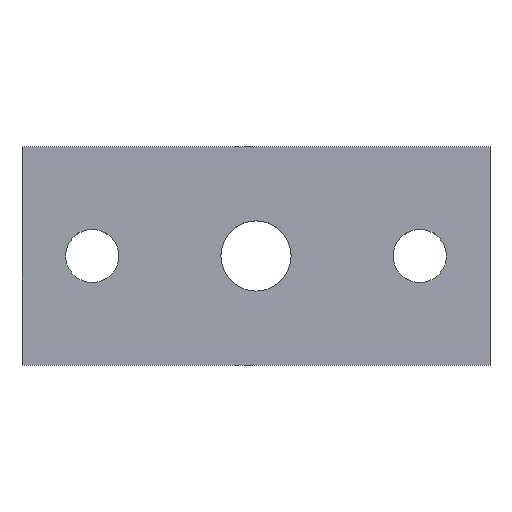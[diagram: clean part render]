
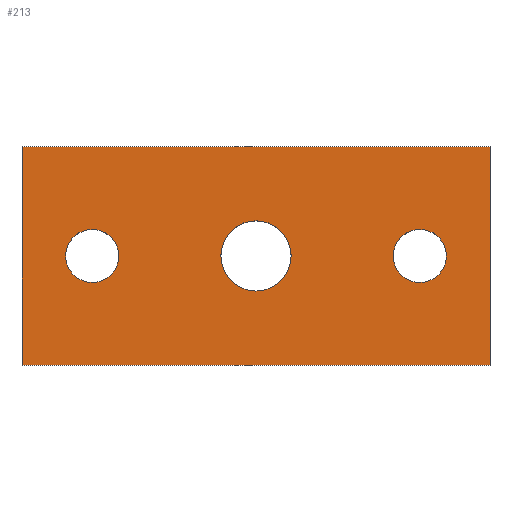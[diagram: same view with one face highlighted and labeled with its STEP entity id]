
A CAD part, top view. The second image highlights one B-rep face of the part: STEP entity #213.
In plain terms, the highlighted planar face has unit normal (0, 0, 1).
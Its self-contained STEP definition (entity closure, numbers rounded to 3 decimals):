
#24 = VERTEX_POINT('',#25);
#25 = CARTESIAN_POINT('',(-15.,13.,53.));
#32 = PLANE('',#33);
#33 = AXIS2_PLACEMENT_3D('',#34,#35,#36);
#34 = CARTESIAN_POINT('',(-15.,13.,50.));
#35 = DIRECTION('',(1.,0.,0.));
#36 = DIRECTION('',(0.,0.,1.));
#44 = PLANE('',#45);
#45 = AXIS2_PLACEMENT_3D('',#46,#47,#48);
#46 = CARTESIAN_POINT('',(-15.,13.,50.));
#47 = DIRECTION('',(0.,1.,0.));
#48 = DIRECTION('',(0.,0.,1.));
#85 = VERTEX_POINT('',#86);
#86 = CARTESIAN_POINT('',(-15.,27.,53.));
#100 = PLANE('',#101);
#101 = AXIS2_PLACEMENT_3D('',#102,#103,#104);
#102 = CARTESIAN_POINT('',(-15.,27.,50.));
#103 = DIRECTION('',(0.,1.,0.));
#104 = DIRECTION('',(0.,0.,1.));
#112 = EDGE_CURVE('',#24,#85,#113,.T.);
#113 = SURFACE_CURVE('',#114,(#118,#125),.PCURVE_S1.);
#114 = LINE('',#115,#116);
#115 = CARTESIAN_POINT('',(-15.,13.,53.));
#116 = VECTOR('',#117,1.);
#117 = DIRECTION('',(0.,1.,0.));
#118 = PCURVE('',#32,#119);
#119 = DEFINITIONAL_REPRESENTATION('',(#120),#124);
#120 = LINE('',#121,#122);
#121 = CARTESIAN_POINT('',(3.,0.));
#122 = VECTOR('',#123,1.);
#123 = DIRECTION('',(0.,-1.));
#124 = ( GEOMETRIC_REPRESENTATION_CONTEXT(2) 
PARAMETRIC_REPRESENTATION_CONTEXT() REPRESENTATION_CONTEXT('2D SPACE',''
  ) );
#125 = PCURVE('',#126,#131);
#126 = PLANE('',#127);
#127 = AXIS2_PLACEMENT_3D('',#128,#129,#130);
#128 = CARTESIAN_POINT('',(-15.,13.,53.));
#129 = DIRECTION('',(0.,0.,1.));
#130 = DIRECTION('',(1.,0.,0.));
#131 = DEFINITIONAL_REPRESENTATION('',(#132),#136);
#132 = LINE('',#133,#134);
#133 = CARTESIAN_POINT('',(0.,0.));
#134 = VECTOR('',#135,1.);
#135 = DIRECTION('',(0.,1.));
#136 = ( GEOMETRIC_REPRESENTATION_CONTEXT(2) 
PARAMETRIC_REPRESENTATION_CONTEXT() REPRESENTATION_CONTEXT('2D SPACE',''
  ) );
#165 = EDGE_CURVE('',#24,#166,#168,.T.);
#166 = VERTEX_POINT('',#167);
#167 = CARTESIAN_POINT('',(15.,13.,53.));
#168 = SURFACE_CURVE('',#169,(#173,#180),.PCURVE_S1.);
#169 = LINE('',#170,#171);
#170 = CARTESIAN_POINT('',(-15.,13.,53.));
#171 = VECTOR('',#172,1.);
#172 = DIRECTION('',(1.,0.,0.));
#173 = PCURVE('',#44,#174);
#174 = DEFINITIONAL_REPRESENTATION('',(#175),#179);
#175 = LINE('',#176,#177);
#176 = CARTESIAN_POINT('',(3.,0.));
#177 = VECTOR('',#178,1.);
#178 = DIRECTION('',(0.,1.));
#179 = ( GEOMETRIC_REPRESENTATION_CONTEXT(2) 
PARAMETRIC_REPRESENTATION_CONTEXT() REPRESENTATION_CONTEXT('2D SPACE',''
  ) );
#180 = PCURVE('',#126,#181);
#181 = DEFINITIONAL_REPRESENTATION('',(#182),#186);
#182 = LINE('',#183,#184);
#183 = CARTESIAN_POINT('',(0.,0.));
#184 = VECTOR('',#185,1.);
#185 = DIRECTION('',(1.,0.));
#186 = ( GEOMETRIC_REPRESENTATION_CONTEXT(2) 
PARAMETRIC_REPRESENTATION_CONTEXT() REPRESENTATION_CONTEXT('2D SPACE',''
  ) );
#202 = PLANE('',#203);
#203 = AXIS2_PLACEMENT_3D('',#204,#205,#206);
#204 = CARTESIAN_POINT('',(15.,13.,50.));
#205 = DIRECTION('',(1.,0.,0.));
#206 = DIRECTION('',(0.,0.,1.));
#213 = ADVANCED_FACE('',(#214,#262,#293,#324),#126,.T.);
#214 = FACE_BOUND('',#215,.T.);
#215 = EDGE_LOOP('',(#216,#217,#218,#241));
#216 = ORIENTED_EDGE('',*,*,#112,.F.);
#217 = ORIENTED_EDGE('',*,*,#165,.T.);
#218 = ORIENTED_EDGE('',*,*,#219,.T.);
#219 = EDGE_CURVE('',#166,#220,#222,.T.);
#220 = VERTEX_POINT('',#221);
#221 = CARTESIAN_POINT('',(15.,27.,53.));
#222 = SURFACE_CURVE('',#223,(#227,#234),.PCURVE_S1.);
#223 = LINE('',#224,#225);
#224 = CARTESIAN_POINT('',(15.,13.,53.));
#225 = VECTOR('',#226,1.);
#226 = DIRECTION('',(0.,1.,0.));
#227 = PCURVE('',#126,#228);
#228 = DEFINITIONAL_REPRESENTATION('',(#229),#233);
#229 = LINE('',#230,#231);
#230 = CARTESIAN_POINT('',(30.,0.));
#231 = VECTOR('',#232,1.);
#232 = DIRECTION('',(0.,1.));
#233 = ( GEOMETRIC_REPRESENTATION_CONTEXT(2) 
PARAMETRIC_REPRESENTATION_CONTEXT() REPRESENTATION_CONTEXT('2D SPACE',''
  ) );
#234 = PCURVE('',#202,#235);
#235 = DEFINITIONAL_REPRESENTATION('',(#236),#240);
#236 = LINE('',#237,#238);
#237 = CARTESIAN_POINT('',(3.,0.));
#238 = VECTOR('',#239,1.);
#239 = DIRECTION('',(0.,-1.));
#240 = ( GEOMETRIC_REPRESENTATION_CONTEXT(2) 
PARAMETRIC_REPRESENTATION_CONTEXT() REPRESENTATION_CONTEXT('2D SPACE',''
  ) );
#241 = ORIENTED_EDGE('',*,*,#242,.F.);
#242 = EDGE_CURVE('',#85,#220,#243,.T.);
#243 = SURFACE_CURVE('',#244,(#248,#255),.PCURVE_S1.);
#244 = LINE('',#245,#246);
#245 = CARTESIAN_POINT('',(-15.,27.,53.));
#246 = VECTOR('',#247,1.);
#247 = DIRECTION('',(1.,0.,0.));
#248 = PCURVE('',#126,#249);
#249 = DEFINITIONAL_REPRESENTATION('',(#250),#254);
#250 = LINE('',#251,#252);
#251 = CARTESIAN_POINT('',(0.,14.));
#252 = VECTOR('',#253,1.);
#253 = DIRECTION('',(1.,0.));
#254 = ( GEOMETRIC_REPRESENTATION_CONTEXT(2) 
PARAMETRIC_REPRESENTATION_CONTEXT() REPRESENTATION_CONTEXT('2D SPACE',''
  ) );
#255 = PCURVE('',#100,#256);
#256 = DEFINITIONAL_REPRESENTATION('',(#257),#261);
#257 = LINE('',#258,#259);
#258 = CARTESIAN_POINT('',(3.,0.));
#259 = VECTOR('',#260,1.);
#260 = DIRECTION('',(0.,1.));
#261 = ( GEOMETRIC_REPRESENTATION_CONTEXT(2) 
PARAMETRIC_REPRESENTATION_CONTEXT() REPRESENTATION_CONTEXT('2D SPACE',''
  ) );
#262 = FACE_BOUND('',#263,.T.);
#263 = EDGE_LOOP('',(#264));
#264 = ORIENTED_EDGE('',*,*,#265,.F.);
#265 = EDGE_CURVE('',#266,#266,#268,.T.);
#266 = VERTEX_POINT('',#267);
#267 = CARTESIAN_POINT('',(-8.8,20.,53.));
#268 = SURFACE_CURVE('',#269,(#274,#281),.PCURVE_S1.);
#269 = CIRCLE('',#270,1.7);
#270 = AXIS2_PLACEMENT_3D('',#271,#272,#273);
#271 = CARTESIAN_POINT('',(-10.5,20.,53.));
#272 = DIRECTION('',(0.,0.,1.));
#273 = DIRECTION('',(1.,0.,0.));
#274 = PCURVE('',#126,#275);
#275 = DEFINITIONAL_REPRESENTATION('',(#276),#280);
#276 = CIRCLE('',#277,1.7);
#277 = AXIS2_PLACEMENT_2D('',#278,#279);
#278 = CARTESIAN_POINT('',(4.5,7.));
#279 = DIRECTION('',(1.,0.));
#280 = ( GEOMETRIC_REPRESENTATION_CONTEXT(2) 
PARAMETRIC_REPRESENTATION_CONTEXT() REPRESENTATION_CONTEXT('2D SPACE',''
  ) );
#281 = PCURVE('',#282,#287);
#282 = CYLINDRICAL_SURFACE('',#283,1.7);
#283 = AXIS2_PLACEMENT_3D('',#284,#285,#286);
#284 = CARTESIAN_POINT('',(-10.5,20.,48.));
#285 = DIRECTION('',(-0.,-0.,-1.));
#286 = DIRECTION('',(1.,0.,0.));
#287 = DEFINITIONAL_REPRESENTATION('',(#288),#292);
#288 = LINE('',#289,#290);
#289 = CARTESIAN_POINT('',(-0.,-5.));
#290 = VECTOR('',#291,1.);
#291 = DIRECTION('',(-1.,0.));
#292 = ( GEOMETRIC_REPRESENTATION_CONTEXT(2) 
PARAMETRIC_REPRESENTATION_CONTEXT() REPRESENTATION_CONTEXT('2D SPACE',''
  ) );
#293 = FACE_BOUND('',#294,.T.);
#294 = EDGE_LOOP('',(#295));
#295 = ORIENTED_EDGE('',*,*,#296,.F.);
#296 = EDGE_CURVE('',#297,#297,#299,.T.);
#297 = VERTEX_POINT('',#298);
#298 = CARTESIAN_POINT('',(2.25,20.,53.));
#299 = SURFACE_CURVE('',#300,(#305,#312),.PCURVE_S1.);
#300 = CIRCLE('',#301,2.25);
#301 = AXIS2_PLACEMENT_3D('',#302,#303,#304);
#302 = CARTESIAN_POINT('',(0.,20.,53.));
#303 = DIRECTION('',(0.,0.,1.));
#304 = DIRECTION('',(1.,0.,0.));
#305 = PCURVE('',#126,#306);
#306 = DEFINITIONAL_REPRESENTATION('',(#307),#311);
#307 = CIRCLE('',#308,2.25);
#308 = AXIS2_PLACEMENT_2D('',#309,#310);
#309 = CARTESIAN_POINT('',(15.,7.));
#310 = DIRECTION('',(1.,0.));
#311 = ( GEOMETRIC_REPRESENTATION_CONTEXT(2) 
PARAMETRIC_REPRESENTATION_CONTEXT() REPRESENTATION_CONTEXT('2D SPACE',''
  ) );
#312 = PCURVE('',#313,#318);
#313 = CYLINDRICAL_SURFACE('',#314,2.25);
#314 = AXIS2_PLACEMENT_3D('',#315,#316,#317);
#315 = CARTESIAN_POINT('',(0.,20.,50.));
#316 = DIRECTION('',(-0.,-0.,-1.));
#317 = DIRECTION('',(1.,0.,0.));
#318 = DEFINITIONAL_REPRESENTATION('',(#319),#323);
#319 = LINE('',#320,#321);
#320 = CARTESIAN_POINT('',(-0.,-3.));
#321 = VECTOR('',#322,1.);
#322 = DIRECTION('',(-1.,0.));
#323 = ( GEOMETRIC_REPRESENTATION_CONTEXT(2) 
PARAMETRIC_REPRESENTATION_CONTEXT() REPRESENTATION_CONTEXT('2D SPACE',''
  ) );
#324 = FACE_BOUND('',#325,.T.);
#325 = EDGE_LOOP('',(#326));
#326 = ORIENTED_EDGE('',*,*,#327,.F.);
#327 = EDGE_CURVE('',#328,#328,#330,.T.);
#328 = VERTEX_POINT('',#329);
#329 = CARTESIAN_POINT('',(12.2,20.,53.));
#330 = SURFACE_CURVE('',#331,(#336,#343),.PCURVE_S1.);
#331 = CIRCLE('',#332,1.7);
#332 = AXIS2_PLACEMENT_3D('',#333,#334,#335);
#333 = CARTESIAN_POINT('',(10.5,20.,53.));
#334 = DIRECTION('',(0.,0.,1.));
#335 = DIRECTION('',(1.,0.,0.));
#336 = PCURVE('',#126,#337);
#337 = DEFINITIONAL_REPRESENTATION('',(#338),#342);
#338 = CIRCLE('',#339,1.7);
#339 = AXIS2_PLACEMENT_2D('',#340,#341);
#340 = CARTESIAN_POINT('',(25.5,7.));
#341 = DIRECTION('',(1.,0.));
#342 = ( GEOMETRIC_REPRESENTATION_CONTEXT(2) 
PARAMETRIC_REPRESENTATION_CONTEXT() REPRESENTATION_CONTEXT('2D SPACE',''
  ) );
#343 = PCURVE('',#344,#349);
#344 = CYLINDRICAL_SURFACE('',#345,1.7);
#345 = AXIS2_PLACEMENT_3D('',#346,#347,#348);
#346 = CARTESIAN_POINT('',(10.5,20.,48.));
#347 = DIRECTION('',(-0.,-0.,-1.));
#348 = DIRECTION('',(1.,0.,0.));
#349 = DEFINITIONAL_REPRESENTATION('',(#350),#354);
#350 = LINE('',#351,#352);
#351 = CARTESIAN_POINT('',(-0.,-5.));
#352 = VECTOR('',#353,1.);
#353 = DIRECTION('',(-1.,0.));
#354 = ( GEOMETRIC_REPRESENTATION_CONTEXT(2) 
PARAMETRIC_REPRESENTATION_CONTEXT() REPRESENTATION_CONTEXT('2D SPACE',''
  ) );
